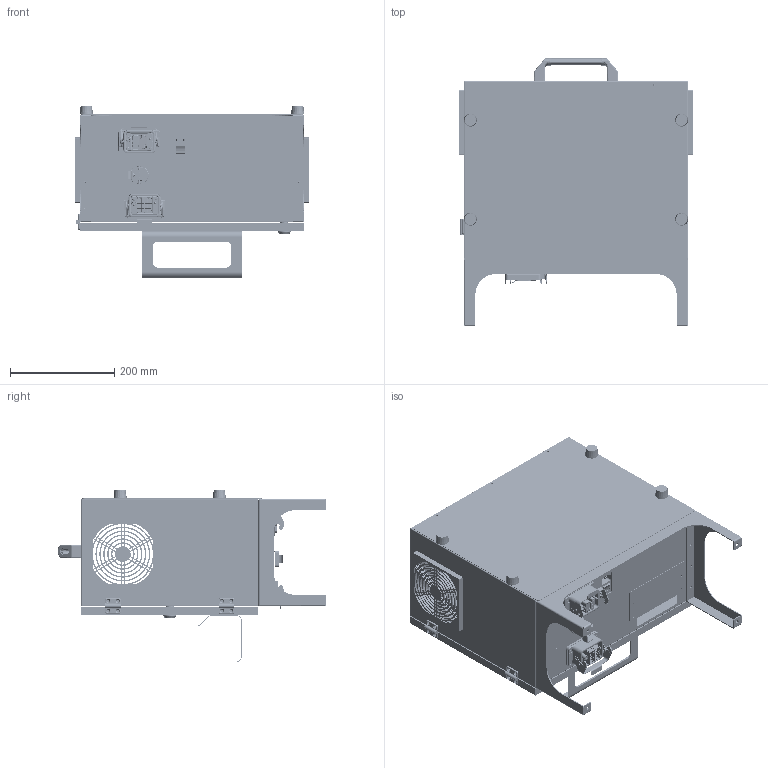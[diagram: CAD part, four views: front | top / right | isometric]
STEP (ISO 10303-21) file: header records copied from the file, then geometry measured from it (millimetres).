
FILE_DESCRIPTION((''),'2;1');
FILE_NAME('HC-P2_STP_ASM','2019-12-06T',('2seunghwan'),(''),'PRO/ENGINEER BY PARAMETRIC TECHNOLOGY CORPORATION, 2015440','PRO/ENGINEER BY PARAMETRIC TECHNOLOGY CORPORATION, 2015440','');
FILE_SCHEMA(('AUTOMOTIVE_DESIGN { 1 0 10303 214 1 1 1 1 }'));
Products named in the file (45): CASE-HC-S2_MAIN_CASE; 0M0-HANDLE-BYCAL25_BK; 0M0-HANDLE-BYCAL25-100; 0M0-HANDLE-BK1; 0MA-HANDLE-BYCAL25-140_ASM; COVER-HC-P2_FRONT_PANEL; 0R0-POWER-SOCKET-DRW114978A; ______2-524359_1; ______3-1040903_1; ______4-15860_1; ______1-44077_1; ASM0012_ASM; HCR12_H6B-AG_REV_1_ASM_1_ASM; C-T2070064001-000-B-3D_1; C-T2111062201-000-B-3D; C-T2111082201-000-B-3D_1; HCR12_H6B-AG_REV_1_ASM_ASM; HCR12_09452151100_CONNECTOR; COVER-HC-S2_PANEL_IO_COVER; BASE-HC-S2_CASE_FOOT; C-T2070064101-000-B-3D; 0005689237; 0005689242; H6B-AG_TP_ASM; ASSEMBLE_BODY_ASM; COVER-HC-S2_BACK_COVER; DOOR-HC-S2_FRONT_DOOR; __-__13_REV_3_1_1; SUNON_FAN_GUARD_FILTER_-1035936_ASM; SUNON_FAN_GUARD_FILTER__-119134; SUNON_FAN_GUARD_ASM_ASM; RUB-13D; 0R0-C-195-0-1; 0R0-C-195-0-2; 0R0-C-195-090-J; 0R0-C-195-0-T; 0R0-C-195-0-3; 0R0-C-195-0_Z_P_I_B_G_M19; 0R0-C-195-0_Z_P_I_B_G_M7; 0RA-ASSY-C-195-0_ASM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
Assembly tree (52 placements, depth 6):
  HC-P2_STP_ASM
    ASSEMBLE_BODY_ASM
      CASE-HC-S2_MAIN_CASE
      0MA-HANDLE-BYCAL25-140_ASM
        0M0-HANDLE-BYCAL25_BK
        0M0-HANDLE-BYCAL25-100
        0M0-HANDLE-BK1
      COVER-HC-P2_FRONT_PANEL
      0R0-POWER-SOCKET-DRW114978A
      HCR12_H6B-AG_REV_1_ASM_ASM
        HCR12_H6B-AG_REV_1_ASM_1_ASM
          ASM0012_ASM
            ______2-524359_1
            ______3-1040903_1
            ______4-15860_1
            ______1-44077_1
        C-T2070064001-000-B-3D_1
        C-T2111062201-000-B-3D
        C-T2111082201-000-B-3D_1
      HCR12_09452151100_CONNECTOR
      COVER-HC-S2_PANEL_IO_COVER
      BASE-HC-S2_CASE_FOOT
      H6B-AG_TP_ASM
        HCR12_H6B-AG_REV_1_ASM_1_ASM
          ASM0012_ASM
            ______2-524359_1
            ______3-1040903_1
            ______4-15860_1
            ______1-44077_1
        C-T2070064101-000-B-3D
        0005689237
        0005689242
    COVER-HC-S2_BACK_COVER
    DOOR-HC-S2_FRONT_DOOR
    SUNON_FAN_GUARD_ASM_ASM  x2
      SUNON_FAN_GUARD_FILTER_-1035936_ASM
        __-__13_REV_3_1_1
      SUNON_FAN_GUARD_FILTER__-119134
    RUB-13D  x4
    0RA-ASSY-C-195-0_ASM
      0R0-C-195-0-1
      0R0-C-195-0-2
      0R0-C-195-090-J
      0R0-C-195-0-T
      0R0-C-195-0-3
      0R0-C-195-0_Z_P_I_B_G_M19
      0R0-C-195-0_Z_P_I_B_G_M7
    BYH3030-30_L_REV_3_1  x2
    BYH3030-30_R_REV_3_1  x2
    BYH3030-30_PIN_REV_3_1  x2
    TP-BKT
Bounding box: 450.2 x 514.83 x 330 mm (x, y, z)
Volume: 1415171.7 mm3; surface area: 1873342.2 mm2
Topology: 45 solids, 47 shells, 11040 faces, 30648 edges, 20222 vertices
Faces by surface type: plane 6763, cylinder 3290, bspline 487, torus 230, cone 192, sphere 42, extrusion 36
Entity records: 394102 total; most frequent: CARTESIAN_POINT 138539, ORIENTED_EDGE 48657, DIRECTION 45079, EDGE_CURVE 24650, VECTOR 17319, LINE 17283, VERTEX_POINT 16192, AXIS2_PLACEMENT_3D 13880
